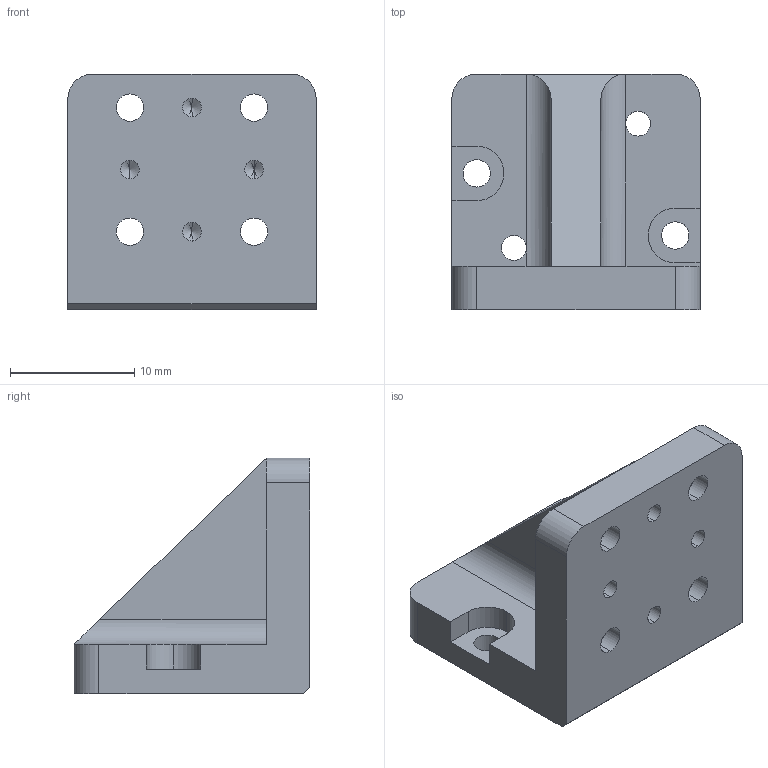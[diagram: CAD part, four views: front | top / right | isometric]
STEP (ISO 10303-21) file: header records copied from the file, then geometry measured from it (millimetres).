
FILE_DESCRIPTION (( 'STEP AP214' ), '1' );
FILE_NAME ('430509 Z-Bracket H19.STEP', '2012-08-16T21:44:33', ( '' ), ( '' ), 'SwSTEP 2.0', 'SolidWorks 2009', '' );
FILE_SCHEMA (( 'AUTOMOTIVE_DESIGN' ));
Length unit declared in the file: millimetre
Products named in the file (1): 430509 Z-Bracket H19
Bounding box: 20 x 19 x 19 mm (x, y, z)
Volume: 2731.8 mm3; surface area: 2283.1 mm2
Topology: 1 solids, 1 shells, 105 faces, 271 edges, 158 vertices
Faces by surface type: cylinder 57, cone 24, plane 24
Entity records: 3132 total; most frequent: DIRECTION 569, CARTESIAN_POINT 517, ORIENTED_EDGE 494, EDGE_CURVE 247, AXIS2_PLACEMENT_3D 218, VERTEX_POINT 158, EDGE_LOOP 135, LINE 133
